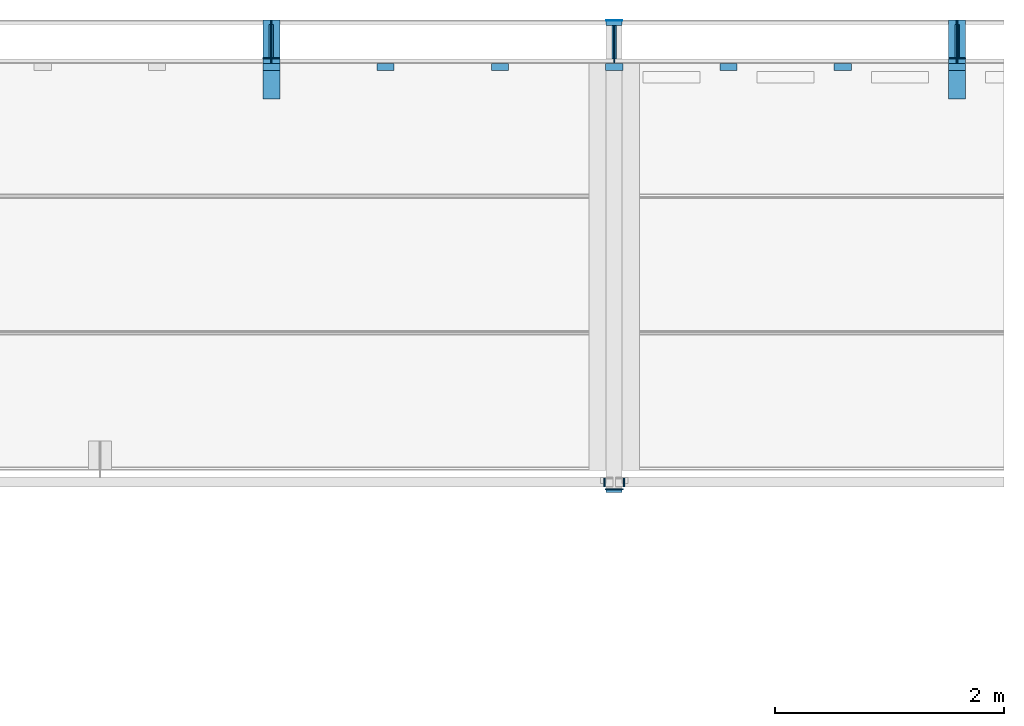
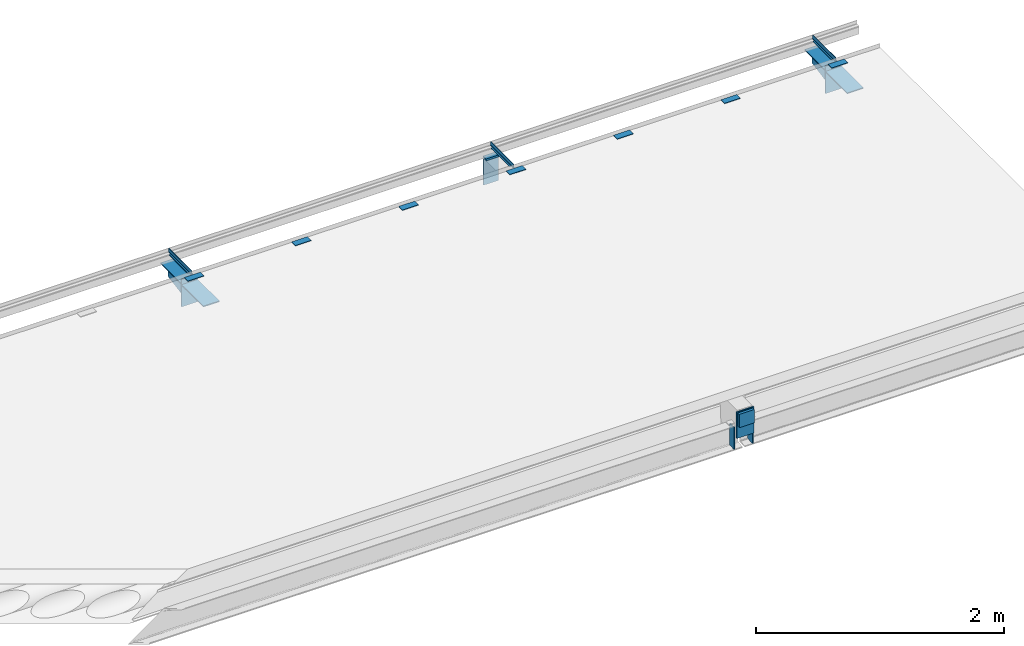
# One storey, part 3 of 8: 24 beams.
"""IFC2X3 building model written with IfcOpenShell, lengths in millimetres."""

from ifc_helpers import new_model, entity, si_unit, converted_unit, derived_unit, direction, frame, origin_with_axes, origin_2d_with_axis, place, context, subcontext, project, spatial, polyline, rectangle, t_section, outline, extrude, boolean, material, type_object, element, save


model = new_model("IFC2X3")

# Units and contexts
model_context = context("Model", 3, precision=0.01, world=frame((0.0, 4.29681676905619e-09, 0.0)), true_north=direction((4.01073788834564e-13, 1.0)))
plan_context = context("Plan", 3, precision=0.01, world=frame((0.0, 4.29681676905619e-09, 0.0)), true_north=direction((4.01073788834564e-13, 1.0)))
body_context = subcontext(model_context, "Body", "Model", "MODEL_VIEW")
ifc_project = project(units=[converted_unit("PLANEANGLEUNIT", "DEGREE", entity("IfcPositiveLengthMeasure", 0.0174532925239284), si_unit("PLANEANGLEUNIT", "RADIAN"), dimensions=[0, 0, 0, 0, 0, 0, 0]), si_unit("AREAUNIT", "SQUARE_METRE"), si_unit("LENGTHUNIT", "METRE", prefix="MILLI"), si_unit("MASSUNIT", "GRAM", prefix="KILO"), si_unit("POWERUNIT", "WATT"), si_unit("PRESSUREUNIT", "PASCAL"), si_unit("FORCEUNIT", "NEWTON", prefix="KILO"), si_unit("ELECTRICVOLTAGEUNIT", "VOLT"), si_unit("ELECTRICCURRENTUNIT", "AMPERE"), si_unit("THERMODYNAMICTEMPERATUREUNIT", "DEGREE_CELSIUS"), si_unit("TIMEUNIT", "SECOND"), si_unit("VOLUMEUNIT", "CUBIC_METRE"), derived_unit("LINEARVELOCITYUNIT", [(si_unit("LENGTHUNIT", "METRE"), 1), (si_unit("TIMEUNIT", "SECOND"), -1)]), derived_unit("VOLUMETRICFLOWRATEUNIT", [(si_unit("VOLUMEUNIT", "CUBIC_METRE"), 1), (si_unit("TIMEUNIT", "SECOND"), -1)]), derived_unit("THERMALTRANSMITTANCEUNIT", [(si_unit("POWERUNIT", "WATT"), 1), (si_unit("THERMODYNAMICTEMPERATUREUNIT", "KELVIN"), -1), (si_unit("AREAUNIT", "SQUARE_METRE"), -1)]), derived_unit("SOUNDPRESSUREUNIT", [(si_unit("PRESSUREUNIT", "PASCAL"), 1)])], contexts=[model_context, plan_context])

# Site, building, storey
site_placement = place(None, frame((0.0, -4.29681676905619e-09, 0.0), z_axis=(0.0, 0.0, 1.0), x_axis=(1.0, 0.0, 0.0)))
site = spatial("IfcSite", under=ifc_project, at=site_placement, Name="Gardermoen", CompositionType="ELEMENT")
building_placement = place(site_placement, frame((0.0, 4.29681676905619e-09, 0.0), z_axis=(0.0, 0.0, 1.0), x_axis=(1.0, 0.0, 0.0)))
building = spatial("IfcBuilding", under=site, at=building_placement, Name="TH", CompositionType="ELEMENT")
storey_placement = place(building_placement, origin_with_axes())
storey = spatial("IfcBuildingStorey", under=building, at=storey_placement, Name="G", CompositionType="ELEMENT", Elevation=0.0)

# Beams
ifc_material_1 = material(Name="STEEL/S355J0")
beam_type_1 = type_object("IfcBeamType", Name="PL10*160", PredefinedType="NOTDEFINED")
beam_1_placement = place(storey_placement, frame((906999.999768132, 480714.000026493, 213291.5), z_axis=(1.0, 0.0, 0.0), x_axis=(0.0, 0.0, 1.0)))
element("IfcBeam", 1, at=beam_1_placement, inside=storey, type_object=beam_type_1, material=ifc_material_1, Name="STÅLBJELKE", ObjectType="PL10*160", context=body_context, shape_type="SweptSolid", body=[
    extrude(rectangle(XDim=10.0, YDim=160.0, at=origin_2d_with_axis()), frame((259.999999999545, -1.16415321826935e-10, 0.0), z_axis=(-1.0, 0.0, 6.61744490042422e-24), x_axis=(0.0, -1.0, 0.0)), (0.0, 0.0, 1.0), 260.0),
])
ifc_material_2 = material(Name="STEEL/S355")
beam_type_2 = type_object("IfcBeamType", Name="PL10*210", PredefinedType="NOTDEFINED")
for number, where, z_axis, x_axis in (
    (2, (904000.0, 484819.999989, 213570.131614), (1.0, 0.0, 0.0), (0.0, -1.0, 0.0)),
    (3, (910000.0, 484819.999989, 213570.131614), (1.0, 0.0, 0.0), (0.0, -1.0, 0.0)),
):
    element("IfcBeam", number, at=place(storey_placement, frame(where, z_axis=z_axis, x_axis=x_axis)), inside=storey, type_object=beam_type_2, material=ifc_material_2, Name="STÅLBJELKE", ObjectType="PL10*210", context=body_context, shape_type="SweptSolid", body=[
        extrude(outline(polyline([(0.0, 0.0), (330.004364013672, 0.0), (330.004364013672, 210.0), (0.0, 150.0), (0.0, 0.0)])), frame((0.0, 0.0, -5.0), z_axis=(0.0, 0.0, 1.0), x_axis=(1.0, 0.0, 0.0)), (0.0, 0.0, 1.0), 10.0),
    ])
beam_type_3 = type_object("IfcBeamType", Name="20*140", PredefinedType="NOTDEFINED")
beam_2_placement = place(storey_placement, frame((907000.0, 484770.000128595, 213570.131614), z_axis=(0.0, 0.0, 1.0), x_axis=(0.0, 1.0, 0.0)))
element("IfcBeam", 4, at=beam_2_placement, inside=storey, type_object=beam_type_3, material=ifc_material_2, Name="STÅLBJELKE", ObjectType="20*140", context=body_context, shape_type="SweptSolid", body=[
    extrude(rectangle(XDim=140.0, YDim=20.0, at=origin_2d_with_axis()), frame((49.9998604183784, 0.0, 0.0), z_axis=(-1.0, 0.0, 6.61744490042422e-24), x_axis=(0.0, -1.0, 0.0)), (0.0, 0.0, 1.0), 50.0),
])
beam_type_4 = type_object("IfcBeamType", Name="T40", PredefinedType="NOTDEFINED")
for number, where, z_axis, x_axis in (
    (5, (904000.0, 484816.0, 213680.131614), (-3.99999553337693e-08, 0.0, -0.999999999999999), (0.0, -1.0, 0.0)),
    (6, (907000.0, 484816.0, 213680.131614), (-3.99999553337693e-08, 0.0, -0.999999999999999), (0.0, -1.0, 0.0)),
    (7, (910000.0, 484816.0, 213680.131614), (-3.99999553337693e-08, 0.0, -0.999999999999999), (0.0, -1.0, 0.0)),
):
    element("IfcBeam", number, at=place(storey_placement, frame(where, z_axis=z_axis, x_axis=x_axis)), inside=storey, type_object=beam_type_4, material=ifc_material_2, Name="STÅLBJELKE", ObjectType="T40", context=body_context, shape_type="CSG", body=[
        boolean("DIFFERENCE", boolean("DIFFERENCE", extrude(t_section(Depth=40.0, FlangeWidth=40.0, WebThickness=5.0, FlangeThickness=5.0, FilletRadius=5.0, FlangeEdgeRadius=2.5, at=origin_2d_with_axis()), frame((372.0, 0.0, 0.0), z_axis=(-1.0, 0.0, 6.61744490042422e-24), x_axis=(0.0, -1.0, 0.0)), (0.0, 0.0, 1.0), 372.0), extrude(outline(polyline([(0.0, 0.0), (35.9997825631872, -1.48429535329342e-09), (35.9998893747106, 5.00003480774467), (-0.000110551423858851, 4.99993991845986), (0.0, 0.0)])), frame((35.9999735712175, 22.9998400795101, 20.0006861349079), z_axis=(-4.44204671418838e-06, -0.999999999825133, -1.81659883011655e-05), x_axis=(-0.999999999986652, 4.4419987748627e-06, 2.63900000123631e-06)), (0.0, 0.0, 1.0), 46.0)), extrude(outline(polyline([(0.0, 0.0), (35.9997825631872, -1.48429535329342e-09), (35.9997711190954, 5.00009489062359), (-0.000229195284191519, 4.99999999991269), (0.0, 0.0)])), frame((372.000191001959, 22.9999999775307, 19.9986246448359), z_axis=(-4.44191436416e-06, -0.999999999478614, 3.19850117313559e-05), x_axis=(-0.999999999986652, 4.4419987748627e-06, 2.63900000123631e-06)), (0.0, 0.0, 1.0), 46.0)),
    ])
beam_type_5 = type_object("IfcBeamType", Name="60*5", PredefinedType="NOTDEFINED")
for number, where, z_axis, x_axis in (
    (8, (904925.002562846, 484410.000002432, 213662.631638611), (0.0, 1.0, 0.0), (1.0, 0.0, 0.0)),
    (9, (905925.002562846, 484410.000002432, 213662.631638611), (0.0, 1.0, 0.0), (1.0, 0.0, 0.0)),
    (10, (903925.002562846, 484410.000002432, 213662.631638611), (0.0, 1.0, 0.0), (1.0, 0.0, 0.0)),
    (11, (906925.002562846, 484410.000002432, 213662.631638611), (0.0, 1.0, 0.0), (1.0, 0.0, 0.0)),
    (12, (907925.002562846, 484410.000002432, 213662.631638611), (0.0, 1.0, 0.0), (1.0, 0.0, 0.0)),
    (13, (908925.002562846, 484410.000002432, 213662.631638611), (0.0, 1.0, 0.0), (1.0, 0.0, 0.0)),
    (14, (909925.002562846, 484410.000002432, 213662.631638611), (0.0, 1.0, 0.0), (1.0, 0.0, 0.0)),
):
    element("IfcBeam", number, at=place(storey_placement, frame(where, z_axis=z_axis, x_axis=x_axis)), inside=storey, type_object=beam_type_5, material=ifc_material_2, Name="STÅLBJELKE", ObjectType="60*5", context=body_context, shape_type="SweptSolid", body=[
        extrude(rectangle(XDim=5.0, YDim=60.0, at=origin_2d_with_axis()), frame((150.0, 0.0, 0.0), z_axis=(-1.0, 0.0, 6.61744490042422e-24), x_axis=(0.0, -1.0, 0.0)), (0.0, 0.0, 1.0), 150.0),
    ])
beam_type_6 = type_object("IfcBeamType", Name="10*150", PredefinedType="NOTDEFINED")
beam_3_placement = place(storey_placement, frame((904000.0, 484129.995625, 213565.131614), z_axis=(0.0, 0.0, 1.0), x_axis=(0.0, 1.0, 0.0)))
element("IfcBeam", 15, at=beam_3_placement, inside=storey, type_object=beam_type_6, material=ifc_material_2, Name="STÅLBJELKE", ObjectType="10*150", context=body_context, shape_type="SweptSolid", body=[
    extrude(rectangle(XDim=150.0, YDim=10.0, at=origin_2d_with_axis()), frame((350.000000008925, 0.0, 1.16415321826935e-10), z_axis=(-1.0, 0.0, 6.61744490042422e-24), x_axis=(0.0, -1.0, 0.0)), (0.0, 0.0, 1.0), 350.0),
])
beam_4_placement = place(storey_placement, frame((904000.0, 484489.995625, 213575.131614), z_axis=(0.0, 0.0, 1.0), x_axis=(0.0, 1.0, 0.0)))
element("IfcBeam", 16, at=beam_4_placement, inside=storey, type_object=beam_type_6, material=ifc_material_2, Name="STÅLBJELKE", ObjectType="10*150", context=body_context, shape_type="SweptSolid", body=[
    extrude(rectangle(XDim=150.0, YDim=10.0, at=origin_2d_with_axis()), frame((330.004364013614, 0.0, 0.0), z_axis=(-1.0, 0.0, 6.61744490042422e-24), x_axis=(0.0, -1.0, 0.0)), (0.0, 0.0, 1.0), 330.0),
])
beam_5_placement = place(storey_placement, frame((904000.0, 484484.995625, 213620.131614), z_axis=(0.0, 1.0, 0.0), x_axis=(-3.99999553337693e-08, 0.0, -0.999999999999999)))
element("IfcBeam", 17, at=beam_5_placement, inside=storey, type_object=beam_type_6, material=ifc_material_2, Name="STÅLBJELKE", ObjectType="10*150", context=body_context, shape_type="SweptSolid", body=[
    extrude(rectangle(XDim=150.0, YDim=10.0, at=origin_2d_with_axis()), frame((270.0, 0.0, 0.0), z_axis=(-1.0, 0.0, 6.61744490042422e-24), x_axis=(0.0, -1.0, 0.0)), (0.0, 0.0, 1.0), 270.0),
])
beam_6_placement = place(storey_placement, frame((910000.0, 484129.995625, 213565.131614), z_axis=(0.0, 0.0, 1.0), x_axis=(0.0, 1.0, 0.0)))
element("IfcBeam", 18, at=beam_6_placement, inside=storey, type_object=beam_type_6, material=ifc_material_2, Name="STÅLBJELKE", ObjectType="10*150", context=body_context, shape_type="SweptSolid", body=[
    extrude(rectangle(XDim=150.0, YDim=10.0, at=origin_2d_with_axis()), frame((350.000000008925, 0.0, 1.16415321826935e-10), z_axis=(-1.0, 0.0, 6.61744490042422e-24), x_axis=(0.0, -1.0, 0.0)), (0.0, 0.0, 1.0), 350.0),
])
beam_7_placement = place(storey_placement, frame((910000.0, 484489.995625, 213575.131614), z_axis=(0.0, 0.0, 1.0), x_axis=(0.0, 1.0, 0.0)))
element("IfcBeam", 19, at=beam_7_placement, inside=storey, type_object=beam_type_6, material=ifc_material_2, Name="STÅLBJELKE", ObjectType="10*150", context=body_context, shape_type="SweptSolid", body=[
    extrude(rectangle(XDim=150.0, YDim=10.0, at=origin_2d_with_axis()), frame((330.004364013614, 0.0, 0.0), z_axis=(-1.0, 0.0, 6.61744490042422e-24), x_axis=(0.0, -1.0, 0.0)), (0.0, 0.0, 1.0), 330.0),
])
beam_8_placement = place(storey_placement, frame((910000.0, 484484.995625, 213620.131614), z_axis=(0.0, 1.0, 0.0), x_axis=(-3.99999553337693e-08, 0.0, -0.999999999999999)))
element("IfcBeam", 20, at=beam_8_placement, inside=storey, type_object=beam_type_6, material=ifc_material_2, Name="STÅLBJELKE", ObjectType="10*150", context=body_context, shape_type="SweptSolid", body=[
    extrude(rectangle(XDim=150.0, YDim=10.0, at=origin_2d_with_axis()), frame((270.0, 0.0, 0.0), z_axis=(-1.0, 0.0, 6.61744490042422e-24), x_axis=(0.0, -1.0, 0.0)), (0.0, 0.0, 1.0), 270.0),
])
beam_type_7 = type_object("IfcBeamType", Name="PL10*76", PredefinedType="NOTDEFINED")
for number, where, z_axis, x_axis in (
    (21, (907084.999766, 480735.004375, 213169.6), (-1.0, 0.0, 0.0), (0.0, 0.0, 1.0)),
    (22, (906914.999766, 480735.004375, 213169.6), (-1.0, 0.0, 0.0), (0.0, 0.0, 1.0)),
):
    element("IfcBeam", number, at=place(storey_placement, frame(where, z_axis=z_axis, x_axis=x_axis)), inside=storey, type_object=beam_type_7, material=ifc_material_2, Name="STÅLBJELKE", ObjectType="PL10*76", context=body_context, shape_type="SweptSolid", body=[
        extrude(outline(polyline([(0.0, 0.0), (220.800003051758, 0.0), (214.759994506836, 75.5), (6.03999996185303, 75.5), (0.0, 0.0)])), frame((0.0, 0.0, -5.0), z_axis=(0.0, 0.0, 1.0), x_axis=(1.0, 0.0, 0.0)), (0.0, 0.0, 1.0), 10.0),
    ])
beam_type_8 = type_object("IfcBeamType", Name="25*140", PredefinedType="NOTDEFINED")
beam_9_placement = place(storey_placement, frame((906999.998891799, 480696.500034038, 213541.000007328), z_axis=(0.0, 1.0, 0.0), x_axis=(-3.99999553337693e-08, 0.0, -0.999999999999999)))
element("IfcBeam", 23, at=beam_9_placement, inside=storey, type_object=beam_type_8, material=ifc_material_2, Name="STÅLBJELKE", ObjectType="25*140", context=body_context, shape_type="SweptSolid", body=[
    extrude(rectangle(XDim=140.0, YDim=25.0, at=origin_2d_with_axis()), frame((130.0, 0.0, 0.0), z_axis=(-1.0, 0.0, 6.61744490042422e-24), x_axis=(0.0, -1.0, 0.0)), (0.0, 0.0, 1.0), 130.0),
])
beam_type_9 = type_object("IfcBeamType", Name="PL5*140", PredefinedType="NOTDEFINED")
beam_10_placement = place(storey_placement, frame((907000.000640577, 484817.5, 213293.0), z_axis=(-1.0, 0.0, 0.0), x_axis=(0.0, 0.0, 1.0)))
element("IfcBeam", 24, at=beam_10_placement, inside=storey, type_object=beam_type_9, material=ifc_material_1, Name="STÅLBJELKE", ObjectType="PL5*140", context=body_context, shape_type="SweptSolid", body=[
    extrude(rectangle(XDim=5.0, YDim=140.0, at=origin_2d_with_axis()), frame((257.0, 0.0, 0.0), z_axis=(-1.0, 0.0, 6.61744490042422e-24), x_axis=(0.0, -1.0, 0.0)), (0.0, 0.0, 1.0), 257.0),
])

save(model, "model.ifc")
